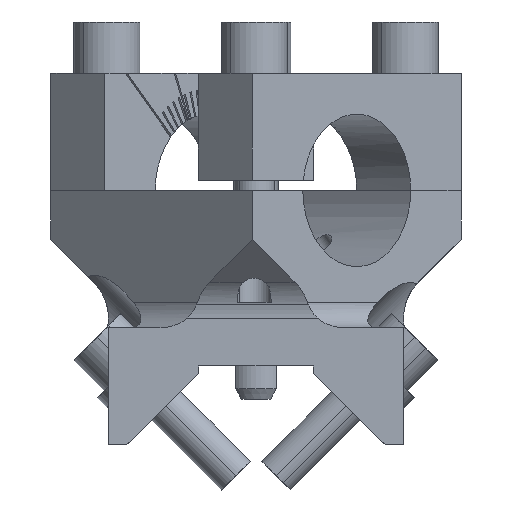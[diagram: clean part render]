
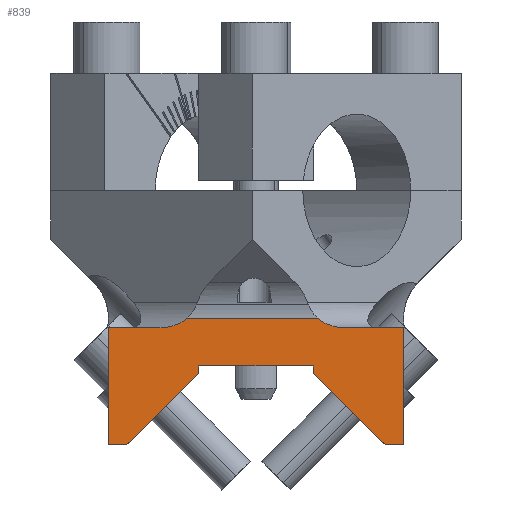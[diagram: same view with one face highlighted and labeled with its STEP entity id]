
A CAD part, front view. The second image highlights one B-rep face of the part: STEP entity #839.
In plain terms, the highlighted planar face has unit normal (0, -1, 0).
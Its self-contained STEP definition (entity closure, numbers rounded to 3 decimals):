
#839=ADVANCED_FACE('Pad.1',(#2022),#2023,.F.);
#2022=FACE_OUTER_BOUND('',#3671,.T.);
#2023=PLANE('',#3672);
#3671=EDGE_LOOP('',(#5728,#5729,#5730,#5731,#5732,#5733,#5734,#5735,#5736,#5737,#5738,#5739,#5740,#5741,#5742,#5743,#5744));
#3672=AXIS2_PLACEMENT_3D('',#5745,#5746,#5747);
#5728=ORIENTED_EDGE('',*,*,#9947,.F.);
#5729=ORIENTED_EDGE('',*,*,#9948,.F.);
#5730=ORIENTED_EDGE('',*,*,#9949,.T.);
#5731=ORIENTED_EDGE('',*,*,#9950,.T.);
#5732=ORIENTED_EDGE('',*,*,#9951,.F.);
#5733=ORIENTED_EDGE('',*,*,#9952,.F.);
#5734=ORIENTED_EDGE('',*,*,#9953,.F.);
#5735=ORIENTED_EDGE('',*,*,#9954,.F.);
#5736=ORIENTED_EDGE('',*,*,#9955,.F.);
#5737=ORIENTED_EDGE('',*,*,#9933,.F.);
#5738=ORIENTED_EDGE('',*,*,#9956,.F.);
#5739=ORIENTED_EDGE('',*,*,#9957,.F.);
#5740=ORIENTED_EDGE('',*,*,#9958,.F.);
#5741=ORIENTED_EDGE('',*,*,#9959,.F.);
#5742=ORIENTED_EDGE('',*,*,#9960,.F.);
#5743=ORIENTED_EDGE('',*,*,#9961,.T.);
#5744=ORIENTED_EDGE('',*,*,#9962,.F.);
#5745=CARTESIAN_POINT('',(0.0,-27.689,0.0));
#5746=DIRECTION('',(0.0,1.0,0.0));
#5747=DIRECTION('',(0.0,0.0,1.0));
#9933=EDGE_CURVE('',#11955,#11957,#11958,.F.);
#9947=EDGE_CURVE('',#11976,#11977,#11978,.T.);
#9948=EDGE_CURVE('',#11979,#11976,#11980,.T.);
#9949=EDGE_CURVE('',#11979,#11981,#11982,.T.);
#9950=EDGE_CURVE('',#11981,#11983,#11984,.T.);
#9951=EDGE_CURVE('',#11985,#11983,#11986,.T.);
#9952=EDGE_CURVE('',#11987,#11985,#11988,.T.);
#9953=EDGE_CURVE('',#11989,#11987,#11990,.T.);
#9954=EDGE_CURVE('',#11991,#11989,#11992,.F.);
#9955=EDGE_CURVE('',#11957,#11991,#11993,.T.);
#9956=EDGE_CURVE('',#11994,#11955,#11995,.T.);
#9957=EDGE_CURVE('',#11996,#11994,#11997,.T.);
#9958=EDGE_CURVE('',#11998,#11996,#11999,.F.);
#9959=EDGE_CURVE('',#12000,#11998,#12001,.F.);
#9960=EDGE_CURVE('',#12002,#12000,#12003,.T.);
#9961=EDGE_CURVE('',#12002,#12004,#12005,.T.);
#9962=EDGE_CURVE('',#11977,#12004,#12006,.T.);
#11955=VERTEX_POINT('',#15555);
#11957=VERTEX_POINT('',#15558);
#11958=LINE('',#15559,#15560);
#11976=VERTEX_POINT('',#15583);
#11977=VERTEX_POINT('',#15584);
#11978=LINE('',#15585,#15586);
#11979=VERTEX_POINT('',#15587);
#11980=B_SPLINE_CURVE_WITH_KNOTS('',5,(#15588,#15589,#15590,#15591,#15592,#15593,#15594,#15595,#15596),.UNSPECIFIED.,.F.,.F.,(6,3,6),(0.0,4.156,8.517),.UNSPECIFIED.);
#11981=VERTEX_POINT('',#15597);
#11982=LINE('',#15598,#15599);
#11983=VERTEX_POINT('',#15600);
#11984=B_SPLINE_CURVE_WITH_KNOTS('',5,(#15601,#15602,#15603,#15604,#15605,#15606,#15607,#15608,#15609),.UNSPECIFIED.,.F.,.F.,(6,3,6),(0.0,4.156,8.517),.UNSPECIFIED.);
#11985=VERTEX_POINT('',#15610);
#11986=LINE('',#15611,#15612);
#11987=VERTEX_POINT('',#15613);
#11988=LINE('',#15614,#15615);
#11989=VERTEX_POINT('',#15616);
#11990=LINE('',#15617,#15618);
#11991=VERTEX_POINT('',#15619);
#11992=LINE('',#15620,#15621);
#11993=LINE('',#15622,#15623);
#11994=VERTEX_POINT('',#15624);
#11995=LINE('',#15625,#15626);
#11996=VERTEX_POINT('',#15627);
#11997=LINE('',#15628,#15629);
#11998=VERTEX_POINT('',#15630);
#11999=LINE('',#15631,#15632);
#12000=VERTEX_POINT('',#15633);
#12001=LINE('',#15634,#15635);
#12002=VERTEX_POINT('',#15636);
#12003=LINE('',#15637,#15638);
#12004=VERTEX_POINT('',#15639);
#12005=LINE('',#15640,#15641);
#12006=LINE('',#15642,#15643);
#15555=CARTESIAN_POINT('',(12.6,-27.689,-7.5));
#15558=CARTESIAN_POINT('',(-9.892,-27.689,-7.5));
#15559=CARTESIAN_POINT('',(1.354,-27.689,-7.5));
#15560=VECTOR('',#19971,1.0);
#15583=CARTESIAN_POINT('',(19.023,-27.689,0.));
#15584=CARTESIAN_POINT('',(26.296,-27.689,0.));
#15585=CARTESIAN_POINT('',(22.66,-27.689,0.));
#15586=VECTOR('',#19989,1.0);
#15587=CARTESIAN_POINT('',(13.451,-27.689,1.922));
#15588=CARTESIAN_POINT('',(13.451,-27.689,1.922));
#15589=CARTESIAN_POINT('',(13.887,-27.689,1.527));
#15590=CARTESIAN_POINT('',(14.373,-27.689,1.189));
#15591=CARTESIAN_POINT('',(14.893,-27.689,0.904));
#15592=CARTESIAN_POINT('',(16.002,-27.689,0.424));
#15593=CARTESIAN_POINT('',(17.178,-27.689,0.143));
#15594=CARTESIAN_POINT('',(17.79,-27.689,0.048));
#15595=CARTESIAN_POINT('',(18.407,-27.689,0.));
#15596=CARTESIAN_POINT('',(19.023,-27.689,0.));
#15597=CARTESIAN_POINT('',(-12.157,-27.689,1.922));
#15598=CARTESIAN_POINT('',(0.647,-27.689,1.922));
#15599=VECTOR('',#19990,1.0);
#15600=CARTESIAN_POINT('',(-17.729,-27.689,0.));
#15601=CARTESIAN_POINT('',(-12.157,-27.689,1.922));
#15602=CARTESIAN_POINT('',(-12.593,-27.689,1.527));
#15603=CARTESIAN_POINT('',(-13.079,-27.689,1.189));
#15604=CARTESIAN_POINT('',(-13.599,-27.689,0.904));
#15605=CARTESIAN_POINT('',(-14.708,-27.689,0.424));
#15606=CARTESIAN_POINT('',(-15.884,-27.689,0.143));
#15607=CARTESIAN_POINT('',(-16.496,-27.689,0.048));
#15608=CARTESIAN_POINT('',(-17.112,-27.689,0.));
#15609=CARTESIAN_POINT('',(-17.729,-27.689,0.));
#15610=CARTESIAN_POINT('',(-27.646,-27.689,0.));
#15611=CARTESIAN_POINT('',(-22.688,-27.689,0.));
#15612=VECTOR('',#19991,1.0);
#15613=CARTESIAN_POINT('',(-27.646,-27.689,-23.0));
#15614=CARTESIAN_POINT('',(-27.646,-27.689,-11.5));
#15615=VECTOR('',#19992,1.0);
#15616=CARTESIAN_POINT('',(-24.001,-27.689,-23.0));
#15617=CARTESIAN_POINT('',(-25.824,-27.689,-23.0));
#15618=VECTOR('',#19993,1.0);
#15619=CARTESIAN_POINT('',(-9.892,-27.689,-8.891));
#15620=CARTESIAN_POINT('',(-16.947,-27.689,-15.945));
#15621=VECTOR('',#19994,1.0);
#15622=CARTESIAN_POINT('',(-9.892,-27.689,-8.195));
#15623=VECTOR('',#19995,1.0);
#15624=CARTESIAN_POINT('',(12.6,-27.689,-8.891));
#15625=CARTESIAN_POINT('',(12.6,-27.689,-8.195));
#15626=VECTOR('',#19996,1.0);
#15627=CARTESIAN_POINT('',(26.709,-27.689,-23.0));
#15628=CARTESIAN_POINT('',(19.655,-27.689,-15.945));
#15629=VECTOR('',#19997,1.0);
#15630=CARTESIAN_POINT('',(30.354,-27.689,-23.0));
#15631=CARTESIAN_POINT('',(28.532,-27.689,-23.0));
#15632=VECTOR('',#19998,1.0);
#15633=CARTESIAN_POINT('',(30.354,-27.689,0.));
#15634=CARTESIAN_POINT('',(30.354,-27.689,-11.5));
#15635=VECTOR('',#19999,1.0);
#15636=CARTESIAN_POINT('',(27.002,-27.689,0.));
#15637=CARTESIAN_POINT('',(28.678,-27.689,0.));
#15638=VECTOR('',#20000,1.0);
#15639=CARTESIAN_POINT('',(27.002,-27.689,-0.001));
#15640=CARTESIAN_POINT('',(27.002,-27.689,-0.001));
#15641=VECTOR('',#20001,1.0);
#15642=CARTESIAN_POINT('',(26.649,-27.689,-0.001));
#15643=VECTOR('',#20002,1.0);
#19971=DIRECTION('',(1.0,0.0,0.0));
#19989=DIRECTION('',(1.0,0.0,0.0));
#19990=DIRECTION('',(-1.0,0.0,0.0));
#19991=DIRECTION('',(1.0,0.0,0.0));
#19992=DIRECTION('',(0.0,0.0,1.0));
#19993=DIRECTION('',(-1.0,0.0,0.0));
#19994=DIRECTION('',(0.707,0.0,0.707));
#19995=DIRECTION('',(0.0,0.0,-1.0));
#19996=DIRECTION('',(0.0,0.0,1.0));
#19997=DIRECTION('',(-0.707,0.0,0.707));
#19998=DIRECTION('',(1.0,0.0,0.0));
#19999=DIRECTION('',(0.0,0.0,1.0));
#20000=DIRECTION('',(1.0,0.0,0.0));
#20001=DIRECTION('',(0.0,0.0,-1.0));
#20002=DIRECTION('',(1.,0.0,-0.001));
